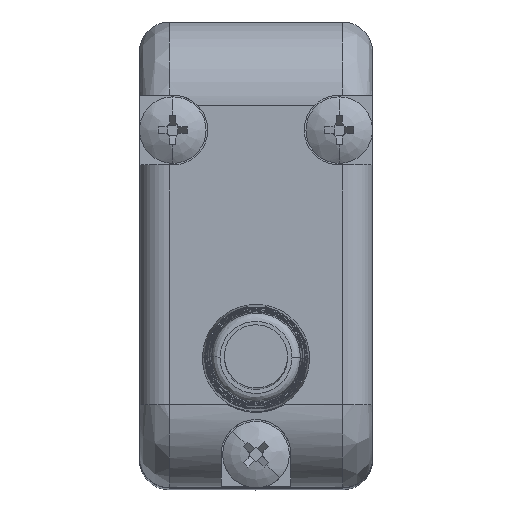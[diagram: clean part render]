
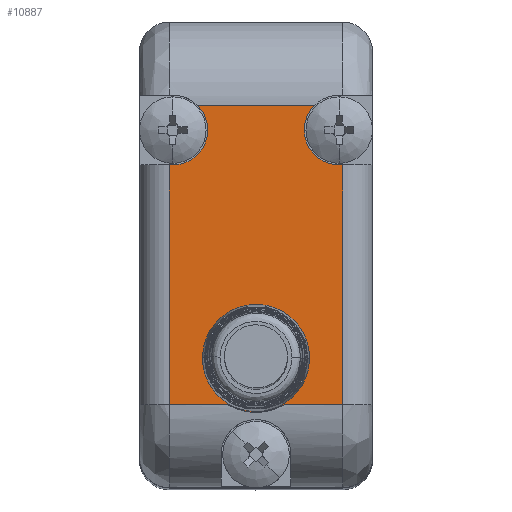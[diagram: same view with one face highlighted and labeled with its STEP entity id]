
A CAD part, top view. The second image highlights one B-rep face of the part: STEP entity #10887.
In plain terms, the highlighted planar face has unit normal (0, 0, 1).
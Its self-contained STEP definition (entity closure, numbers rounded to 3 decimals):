
#155 = CARTESIAN_POINT ( 'NONE',  ( 48.33, 8.575, 58.281 ) ) ;
#243 = EDGE_LOOP ( 'NONE', ( #1916, #5368, #7429, #4049, #11807, #3011, #5026, #7536, #3124, #2918, #8308 ) ) ;
#361 = ORIENTED_EDGE ( 'NONE', *, *, #5169, .T. ) ;
#576 = DIRECTION ( 'NONE',  ( -1., 0., 0. ) ) ;
#596 = VERTEX_POINT ( 'NONE', #7306 ) ;
#610 = DIRECTION ( 'NONE',  ( 0., 0., -1. ) ) ;
#635 = DIRECTION ( 'NONE',  ( 0., 0., -1. ) ) ;
#793 = DIRECTION ( 'NONE',  ( -1., 0., 0. ) ) ;
#796 = AXIS2_PLACEMENT_3D ( 'NONE', #10242, #10360, #3046 ) ;
#857 = VECTOR ( 'NONE', #10393, 1000. ) ;
#1048 = CARTESIAN_POINT ( 'NONE',  ( 49.13, 13.975, 58.281 ) ) ;
#1274 = DIRECTION ( 'NONE',  ( 1., 0., 0. ) ) ;
#1360 = DIRECTION ( 'NONE',  ( -1., 0., 0. ) ) ;
#1404 = CARTESIAN_POINT ( 'NONE',  ( 38.13, 16.075, 58.281 ) ) ;
#1416 = FACE_BOUND ( 'NONE', #4563, .T. ) ;
#1526 = EDGE_CURVE ( 'NONE', #7479, #9047, #3825, .T. ) ;
#1916 = ORIENTED_EDGE ( 'NONE', *, *, #10455, .F. ) ;
#2303 = CARTESIAN_POINT ( 'NONE',  ( 37.93, 8.575, 58.281 ) ) ;
#2363 = LINE ( 'NONE', #2303, #9094 ) ;
#2460 = CARTESIAN_POINT ( 'NONE',  ( 48.13, 13.975, 58.281 ) ) ;
#2524 = ORIENTED_EDGE ( 'NONE', *, *, #9134, .T. ) ;
#2612 = AXIS2_PLACEMENT_3D ( 'NONE', #7972, #610, #793 ) ;
#2657 = DIRECTION ( 'NONE',  ( -1., 0., 0. ) ) ;
#2695 = CARTESIAN_POINT ( 'NONE',  ( 38.13, 13.975, 58.281 ) ) ;
#2715 = CARTESIAN_POINT ( 'NONE',  ( 43.13, 2.375, 58.281 ) ) ;
#2789 = VERTEX_POINT ( 'NONE', #9602 ) ;
#2918 = ORIENTED_EDGE ( 'NONE', *, *, #5976, .T. ) ;
#2981 = CIRCLE ( 'NONE', #2612, 3.219 ) ;
#3011 = ORIENTED_EDGE ( 'NONE', *, *, #8994, .F. ) ;
#3046 = DIRECTION ( 'NONE',  ( 1., 0., 0. ) ) ;
#3088 = AXIS2_PLACEMENT_3D ( 'NONE', #1404, #5168, #5882 ) ;
#3124 = ORIENTED_EDGE ( 'NONE', *, *, #9148, .F. ) ;
#3271 = CARTESIAN_POINT ( 'NONE',  ( 43.13, 17.575, 58.281 ) ) ;
#3427 = EDGE_CURVE ( 'NONE', #6432, #4937, #3877, .T. ) ;
#3735 = VERTEX_POINT ( 'NONE', #6301 ) ;
#3825 = LINE ( 'NONE', #3271, #10936 ) ;
#3877 = LINE ( 'NONE', #155, #5496 ) ;
#3890 = AXIS2_PLACEMENT_3D ( 'NONE', #10707, #635, #576 ) ;
#3999 = DIRECTION ( 'NONE',  ( 0., 0., -1. ) ) ;
#4049 = ORIENTED_EDGE ( 'NONE', *, *, #3427, .F. ) ;
#4134 = CARTESIAN_POINT ( 'NONE',  ( 48.33, 13.975, 58.281 ) ) ;
#4245 = LINE ( 'NONE', #5915, #10387 ) ;
#4563 = EDGE_LOOP ( 'NONE', ( #361, #2524 ) ) ;
#4625 = AXIS2_PLACEMENT_3D ( 'NONE', #2715, #10801, #2657 ) ;
#4937 = VERTEX_POINT ( 'NONE', #8166 ) ;
#5024 = EDGE_CURVE ( 'NONE', #3735, #10015, #2363, .T. ) ;
#5026 = ORIENTED_EDGE ( 'NONE', *, *, #1526, .F. ) ;
#5168 = DIRECTION ( 'NONE',  ( 0., 0., 1. ) ) ;
#5169 = EDGE_CURVE ( 'NONE', #596, #10094, #2981, .T. ) ;
#5368 = ORIENTED_EDGE ( 'NONE', *, *, #10763, .F. ) ;
#5496 = VECTOR ( 'NONE', #6493, 1000. ) ;
#5510 = CARTESIAN_POINT ( 'NONE',  ( 40.23, 16.075, 58.281 ) ) ;
#5650 = LINE ( 'NONE', #1048, #5767 ) ;
#5760 = CIRCLE ( 'NONE', #796, 2.1 ) ;
#5767 = VECTOR ( 'NONE', #10103, 1000. ) ;
#5882 = DIRECTION ( 'NONE',  ( 1., 0., 0. ) ) ;
#5915 = CARTESIAN_POINT ( 'NONE',  ( 43.13, -0.425, 58.281 ) ) ;
#5968 = AXIS2_PLACEMENT_3D ( 'NONE', #11259, #3999, #1360 ) ;
#5976 = EDGE_CURVE ( 'NONE', #6859, #10015, #8514, .T. ) ;
#6012 = PLANE ( 'NONE',  #3890 ) ;
#6048 = CARTESIAN_POINT ( 'NONE',  ( 46.66, 17.575, 58.281 ) ) ;
#6205 = DIRECTION ( 'NONE',  ( -1., 0., 0. ) ) ;
#6301 = CARTESIAN_POINT ( 'NONE',  ( 37.93, -0.425, 58.281 ) ) ;
#6325 = CARTESIAN_POINT ( 'NONE',  ( 43.13, -0.425, 58.281 ) ) ;
#6382 = LINE ( 'NONE', #6325, #11816 ) ;
#6432 = VERTEX_POINT ( 'NONE', #4134 ) ;
#6493 = DIRECTION ( 'NONE',  ( 0., -1., 0. ) ) ;
#6535 = VERTEX_POINT ( 'NONE', #5510 ) ;
#6859 = VERTEX_POINT ( 'NONE', #2695 ) ;
#6918 = EDGE_CURVE ( 'NONE', #4937, #2789, #6382, .T. ) ;
#7278 = AXIS2_PLACEMENT_3D ( 'NONE', #9657, #9476, #1274 ) ;
#7306 = CARTESIAN_POINT ( 'NONE',  ( 39.91, 2.411, 58.281 ) ) ;
#7429 = ORIENTED_EDGE ( 'NONE', *, *, #6918, .F. ) ;
#7479 = VERTEX_POINT ( 'NONE', #9312 ) ;
#7536 = ORIENTED_EDGE ( 'NONE', *, *, #8689, .F. ) ;
#7580 = CARTESIAN_POINT ( 'NONE',  ( 41.431, -0.425, 58.281 ) ) ;
#7850 = CIRCLE ( 'NONE', #3088, 2.1 ) ;
#7918 = VERTEX_POINT ( 'NONE', #2460 ) ;
#7972 = CARTESIAN_POINT ( 'NONE',  ( 43.13, 2.375, 58.281 ) ) ;
#8166 = CARTESIAN_POINT ( 'NONE',  ( 48.33, -0.425, 58.281 ) ) ;
#8308 = ORIENTED_EDGE ( 'NONE', *, *, #5024, .F. ) ;
#8514 = LINE ( 'NONE', #9546, #857 ) ;
#8689 = EDGE_CURVE ( 'NONE', #6535, #7479, #7850, .T. ) ;
#8994 = EDGE_CURVE ( 'NONE', #9047, #7918, #9206, .T. ) ;
#9047 = VERTEX_POINT ( 'NONE', #6048 ) ;
#9094 = VECTOR ( 'NONE', #11464, 1000. ) ;
#9134 = EDGE_CURVE ( 'NONE', #10094, #596, #10950, .T. ) ;
#9148 = EDGE_CURVE ( 'NONE', #6859, #6535, #5760, .T. ) ;
#9206 = CIRCLE ( 'NONE', #7278, 2.1 ) ;
#9311 = CARTESIAN_POINT ( 'NONE',  ( 37.93, 13.975, 58.281 ) ) ;
#9312 = CARTESIAN_POINT ( 'NONE',  ( 39.599, 17.575, 58.281 ) ) ;
#9476 = DIRECTION ( 'NONE',  ( 0., 0., 1. ) ) ;
#9546 = CARTESIAN_POINT ( 'NONE',  ( 37.13, 13.975, 58.281 ) ) ;
#9602 = CARTESIAN_POINT ( 'NONE',  ( 44.828, -0.425, 58.281 ) ) ;
#9618 = DIRECTION ( 'NONE',  ( 1., 0., 0. ) ) ;
#9657 = CARTESIAN_POINT ( 'NONE',  ( 48.13, 16.075, 58.281 ) ) ;
#9942 = EDGE_CURVE ( 'NONE', #6432, #7918, #5650, .T. ) ;
#10015 = VERTEX_POINT ( 'NONE', #9311 ) ;
#10094 = VERTEX_POINT ( 'NONE', #11635 ) ;
#10103 = DIRECTION ( 'NONE',  ( -1., 0., 0. ) ) ;
#10242 = CARTESIAN_POINT ( 'NONE',  ( 38.13, 16.075, 58.281 ) ) ;
#10360 = DIRECTION ( 'NONE',  ( 0., 0., 1. ) ) ;
#10387 = VECTOR ( 'NONE', #11622, 1000. ) ;
#10393 = DIRECTION ( 'NONE',  ( -1., 0., 0. ) ) ;
#10455 = EDGE_CURVE ( 'NONE', #11754, #3735, #4245, .T. ) ;
#10707 = CARTESIAN_POINT ( 'NONE',  ( 48.33, -0.425, 58.281 ) ) ;
#10763 = EDGE_CURVE ( 'NONE', #2789, #11754, #11166, .T. ) ;
#10801 = DIRECTION ( 'NONE',  ( 0., 0., -1. ) ) ;
#10887 = ADVANCED_FACE ( 'NONE', ( #11431, #1416 ), #6012, .F. ) ;
#10936 = VECTOR ( 'NONE', #9618, 1000. ) ;
#10950 = CIRCLE ( 'NONE', #4625, 3.219 ) ;
#11166 = CIRCLE ( 'NONE', #5968, 3.275 ) ;
#11259 = CARTESIAN_POINT ( 'NONE',  ( 43.13, 2.375, 58.281 ) ) ;
#11431 = FACE_OUTER_BOUND ( 'NONE', #243, .T. ) ;
#11464 = DIRECTION ( 'NONE',  ( 0., 1., 0. ) ) ;
#11622 = DIRECTION ( 'NONE',  ( -1., 0., 0. ) ) ;
#11635 = CARTESIAN_POINT ( 'NONE',  ( 46.349, 2.34, 58.281 ) ) ;
#11754 = VERTEX_POINT ( 'NONE', #7580 ) ;
#11807 = ORIENTED_EDGE ( 'NONE', *, *, #9942, .T. ) ;
#11816 = VECTOR ( 'NONE', #6205, 1000. ) ;
